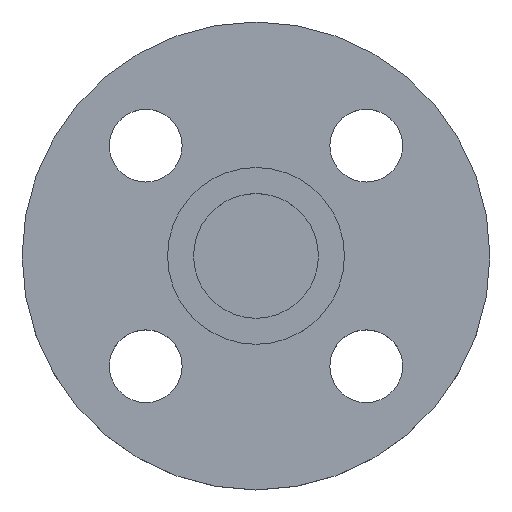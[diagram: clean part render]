
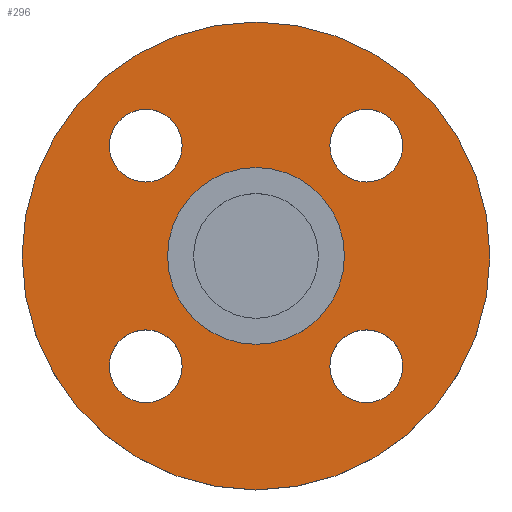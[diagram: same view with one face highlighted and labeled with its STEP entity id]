
A CAD part, top view. The second image highlights one B-rep face of the part: STEP entity #296.
In plain terms, the highlighted planar face has unit normal (0, 0, 1).
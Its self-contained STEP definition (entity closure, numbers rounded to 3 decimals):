
#3 = AXIS2_PLACEMENT_3D ( 'NONE', #716, #717, #718 ) ;
#22 = DIRECTION ( 'NONE',  ( 1., 0., 0. ) ) ;
#23 = DIRECTION ( 'NONE',  ( 0., 0., -1. ) ) ;
#24 = CARTESIAN_POINT ( 'NONE',  ( 21.213, -21.213, -4.5 ) ) ;
#33 = AXIS2_PLACEMENT_3D ( 'NONE', #306, #103, #93 ) ;
#36 = DIRECTION ( 'NONE',  ( 1., 0., 0. ) ) ;
#37 = DIRECTION ( 'NONE',  ( 0., 0., -1. ) ) ;
#39 = CIRCLE ( 'NONE', #310, 7. ) ;
#47 = CIRCLE ( 'NONE', #385, 7. ) ;
#51 = DIRECTION ( 'NONE',  ( 0., 0., -1. ) ) ;
#53 = CARTESIAN_POINT ( 'NONE',  ( -21.213, 21.213, -4.5 ) ) ;
#55 = DIRECTION ( 'NONE',  ( 1., 0., 0. ) ) ;
#67 = CARTESIAN_POINT ( 'NONE',  ( 45., 0., -4.5 ) ) ;
#75 = CARTESIAN_POINT ( 'NONE',  ( 17., 0., -4.5 ) ) ;
#76 = CARTESIAN_POINT ( 'NONE',  ( -45., 0., -4.5 ) ) ;
#81 = CARTESIAN_POINT ( 'NONE',  ( -21.213, 21.213, -4.5 ) ) ;
#93 = DIRECTION ( 'NONE',  ( -1., 0., 0. ) ) ;
#96 = CIRCLE ( 'NONE', #575, 17. ) ;
#103 = DIRECTION ( 'NONE',  ( 0., 0., -1. ) ) ;
#105 = AXIS2_PLACEMENT_3D ( 'NONE', #134, #144, #149 ) ;
#113 = CARTESIAN_POINT ( 'NONE',  ( 28.213, -21.213, -4.5 ) ) ;
#120 = CIRCLE ( 'NONE', #340, 45. ) ;
#134 = CARTESIAN_POINT ( 'NONE',  ( 21.213, 21.213, -4.5 ) ) ;
#136 = EDGE_CURVE ( 'NONE', #389, #512, #215, .T. ) ;
#140 = DIRECTION ( 'NONE',  ( 0., 0., -1. ) ) ;
#142 = AXIS2_PLACEMENT_3D ( 'NONE', #584, #585, #586 ) ;
#144 = DIRECTION ( 'NONE',  ( 0., 0., -1. ) ) ;
#149 = DIRECTION ( 'NONE',  ( 1., 0., 0. ) ) ;
#165 = EDGE_CURVE ( 'NONE', #446, #560, #96, .T. ) ;
#167 = CARTESIAN_POINT ( 'NONE',  ( 21.213, 21.213, -4.5 ) ) ;
#169 = DIRECTION ( 'NONE',  ( 0., 0., -1. ) ) ;
#170 = DIRECTION ( 'NONE',  ( 1., 0., 0. ) ) ;
#185 = EDGE_CURVE ( 'NONE', #560, #446, #437, .T. ) ;
#208 = CARTESIAN_POINT ( 'NONE',  ( -14.213, -21.213, -4.5 ) ) ;
#209 = CARTESIAN_POINT ( 'NONE',  ( -28.213, 21.213, -4.5 ) ) ;
#215 = CIRCLE ( 'NONE', #142, 7. ) ;
#219 = CARTESIAN_POINT ( 'NONE',  ( 0., 0., -4.5 ) ) ;
#220 = DIRECTION ( 'NONE',  ( 0., 0., -1. ) ) ;
#221 = DIRECTION ( 'NONE',  ( -1., 0., 0. ) ) ;
#233 = CARTESIAN_POINT ( 'NONE',  ( 14.213, -21.213, -4.5 ) ) ;
#234 = CARTESIAN_POINT ( 'NONE',  ( 14.213, 21.213, -4.5 ) ) ;
#241 = EDGE_CURVE ( 'NONE', #358, #543, #301, .T. ) ;
#245 = CARTESIAN_POINT ( 'NONE',  ( -17., 0., -4.5 ) ) ;
#248 = CARTESIAN_POINT ( 'NONE',  ( -14.213, 21.213, -4.5 ) ) ;
#254 = CARTESIAN_POINT ( 'NONE',  ( -28.213, -21.213, -4.5 ) ) ;
#255 = CARTESIAN_POINT ( 'NONE',  ( -21.213, -21.213, -4.5 ) ) ;
#275 = CIRCLE ( 'NONE', #105, 7. ) ;
#284 = CIRCLE ( 'NONE', #333, 7. ) ;
#296 = ADVANCED_FACE ( 'NONE', ( #706, #707, #708, #709, #710, #711 ), #714, .T. ) ;
#301 = CIRCLE ( 'NONE', #303, 7. ) ;
#303 = AXIS2_PLACEMENT_3D ( 'NONE', #671, #672, #673 ) ;
#306 = CARTESIAN_POINT ( 'NONE',  ( 0., 0., -4.5 ) ) ;
#310 = AXIS2_PLACEMENT_3D ( 'NONE', #255, #37, #36 ) ;
#316 = EDGE_CURVE ( 'NONE', #453, #390, #275, .T. ) ;
#329 = AXIS2_PLACEMENT_3D ( 'NONE', #24, #23, #22 ) ;
#332 = EDGE_CURVE ( 'NONE', #390, #453, #342, .T. ) ;
#333 = AXIS2_PLACEMENT_3D ( 'NONE', #81, #140, #338 ) ;
#338 = DIRECTION ( 'NONE',  ( 1., 0., 0. ) ) ;
#340 = AXIS2_PLACEMENT_3D ( 'NONE', #219, #220, #221 ) ;
#342 = CIRCLE ( 'NONE', #348, 7. ) ;
#348 = AXIS2_PLACEMENT_3D ( 'NONE', #167, #169, #170 ) ;
#358 = VERTEX_POINT ( 'NONE', #208 ) ;
#362 = VERTEX_POINT ( 'NONE', #209 ) ;
#363 = CIRCLE ( 'NONE', #33, 45. ) ;
#366 = EDGE_LOOP ( 'NONE', ( #463, #464 ) ) ;
#374 = EDGE_CURVE ( 'NONE', #554, #538, #120, .T. ) ;
#385 = AXIS2_PLACEMENT_3D ( 'NONE', #53, #51, #55 ) ;
#389 = VERTEX_POINT ( 'NONE', #233 ) ;
#390 = VERTEX_POINT ( 'NONE', #234 ) ;
#435 = EDGE_LOOP ( 'NONE', ( #442, #443 ) ) ;
#437 = CIRCLE ( 'NONE', #528, 17. ) ;
#441 = EDGE_LOOP ( 'NONE', ( #451, #456 ) ) ;
#442 = ORIENTED_EDGE ( 'NONE', *, *, #712, .T. ) ;
#443 = ORIENTED_EDGE ( 'NONE', *, *, #136, .T. ) ;
#444 = ORIENTED_EDGE ( 'NONE', *, *, #241, .T. ) ;
#446 = VERTEX_POINT ( 'NONE', #245 ) ;
#448 = ORIENTED_EDGE ( 'NONE', *, *, #655, .T. ) ;
#450 = VERTEX_POINT ( 'NONE', #248 ) ;
#451 = ORIENTED_EDGE ( 'NONE', *, *, #499, .T. ) ;
#453 = VERTEX_POINT ( 'NONE', #724 ) ;
#456 = ORIENTED_EDGE ( 'NONE', *, *, #598, .T. ) ;
#457 = ORIENTED_EDGE ( 'NONE', *, *, #316, .T. ) ;
#462 = ORIENTED_EDGE ( 'NONE', *, *, #332, .T. ) ;
#463 = ORIENTED_EDGE ( 'NONE', *, *, #165, .T. ) ;
#464 = ORIENTED_EDGE ( 'NONE', *, *, #185, .T. ) ;
#465 = ORIENTED_EDGE ( 'NONE', *, *, #493, .F. ) ;
#466 = ORIENTED_EDGE ( 'NONE', *, *, #374, .F. ) ;
#493 = EDGE_CURVE ( 'NONE', #538, #554, #363, .T. ) ;
#499 = EDGE_CURVE ( 'NONE', #450, #362, #47, .T. ) ;
#512 = VERTEX_POINT ( 'NONE', #113 ) ;
#528 = AXIS2_PLACEMENT_3D ( 'NONE', #635, #636, #637 ) ;
#538 = VERTEX_POINT ( 'NONE', #67 ) ;
#543 = VERTEX_POINT ( 'NONE', #254 ) ;
#545 = EDGE_LOOP ( 'NONE', ( #444, #448 ) ) ;
#554 = VERTEX_POINT ( 'NONE', #76 ) ;
#556 = EDGE_LOOP ( 'NONE', ( #457, #462 ) ) ;
#558 = EDGE_LOOP ( 'NONE', ( #465, #466 ) ) ;
#560 = VERTEX_POINT ( 'NONE', #75 ) ;
#575 = AXIS2_PLACEMENT_3D ( 'NONE', #606, #607, #609 ) ;
#584 = CARTESIAN_POINT ( 'NONE',  ( 21.213, -21.213, -4.5 ) ) ;
#585 = DIRECTION ( 'NONE',  ( 0., 0., -1. ) ) ;
#586 = DIRECTION ( 'NONE',  ( 1., 0., 0. ) ) ;
#598 = EDGE_CURVE ( 'NONE', #362, #450, #284, .T. ) ;
#606 = CARTESIAN_POINT ( 'NONE',  ( 0., 0., -4.5 ) ) ;
#607 = DIRECTION ( 'NONE',  ( 0., 0., -1. ) ) ;
#609 = DIRECTION ( 'NONE',  ( -1., 0., 0. ) ) ;
#635 = CARTESIAN_POINT ( 'NONE',  ( 0., 0., -4.5 ) ) ;
#636 = DIRECTION ( 'NONE',  ( 0., 0., -1. ) ) ;
#637 = DIRECTION ( 'NONE',  ( -1., 0., 0. ) ) ;
#655 = EDGE_CURVE ( 'NONE', #543, #358, #39, .T. ) ;
#671 = CARTESIAN_POINT ( 'NONE',  ( -21.213, -21.213, -4.5 ) ) ;
#672 = DIRECTION ( 'NONE',  ( 0., 0., -1. ) ) ;
#673 = DIRECTION ( 'NONE',  ( 1., 0., 0. ) ) ;
#674 = CIRCLE ( 'NONE', #329, 7. ) ;
#706 = FACE_BOUND ( 'NONE', #435, .T. ) ;
#707 = FACE_BOUND ( 'NONE', #545, .T. ) ;
#708 = FACE_BOUND ( 'NONE', #441, .T. ) ;
#709 = FACE_BOUND ( 'NONE', #556, .T. ) ;
#710 = FACE_BOUND ( 'NONE', #366, .T. ) ;
#711 = FACE_OUTER_BOUND ( 'NONE', #558, .T. ) ;
#712 = EDGE_CURVE ( 'NONE', #512, #389, #674, .T. ) ;
#714 = PLANE ( 'NONE',  #3 ) ;
#716 = CARTESIAN_POINT ( 'NONE',  ( 17., 0., -4.5 ) ) ;
#717 = DIRECTION ( 'NONE',  ( 0., 0., 1. ) ) ;
#718 = DIRECTION ( 'NONE',  ( 1., 0., 0. ) ) ;
#724 = CARTESIAN_POINT ( 'NONE',  ( 28.213, 21.213, -4.5 ) ) ;
